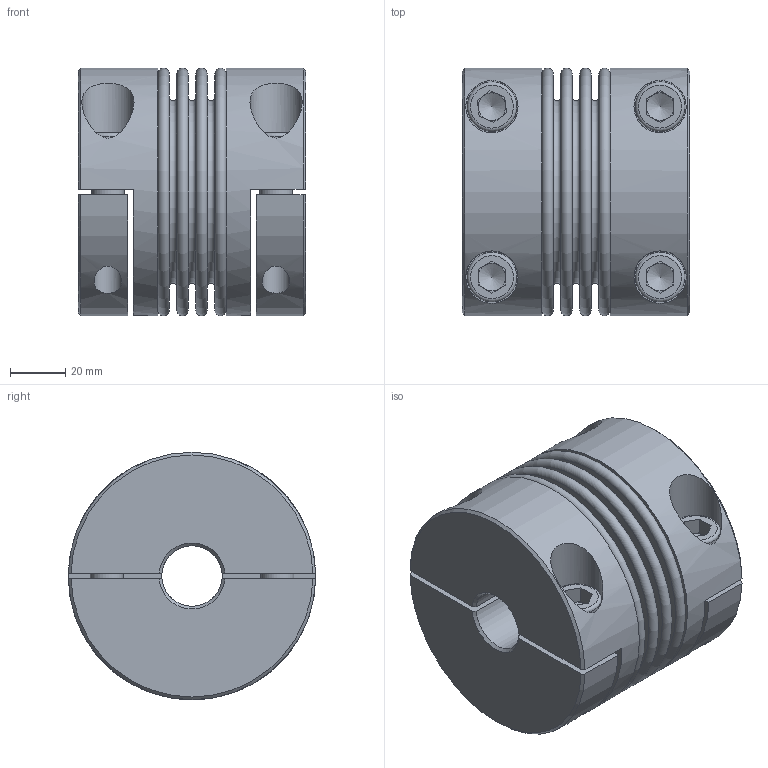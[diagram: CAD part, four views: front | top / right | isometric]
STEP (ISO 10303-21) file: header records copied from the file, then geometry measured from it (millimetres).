
FILE_DESCRIPTION( ( 'Unknown' ), '1' );
FILE_NAME( 'C:/Users/skarpstein/Desktop/KB4HC/KB4HC-200-83.stp', 'Unknown', ( 'Unknown' ), ( 'Unknown' ), 'PSStep 16.0.42', 'Unknown', ' ' );
FILE_SCHEMA( ( 'AUTOMOTIVE_DESIGN { 1 0 10303 214 1 1 1 1 }' ) );
Length unit declared in the file: millimetre
Products named in the file (5): Assem1; KN4HC-200; BK200_Standard_0; Socket Head Cap Screw_DIN_DIN 912 M12 x 35 --- 35N_4
Assembly tree (9 placements, depth 2):
  Assem1
    KN4HC-200  x2
    KN4HC-200  x2
    BK200_Standard_0
    Socket Head Cap Screw_DIN_DIN 912 M12 x 35 --- 35N_4  x4
Bounding box: 82.75 x 90 x 90 mm (x, y, z)
Volume: 331618.8 mm3; surface area: 133502.6 mm2
Topology: 9 solids, 9 shells, 174 faces, 368 edges, 234 vertices
Faces by surface type: plane 100, cylinder 32, torus 26, cone 16
Full cylindrical faces by diameter (mm): 10.106 x4, 12 x4, 12.5 x4, 18 x4, 19 x4, 22 x2, 79.2 x2, 80.4 x2, 90 x2
Entity records: 3208 total; most frequent: CARTESIAN_POINT 707, DIRECTION 382, ORIENTED_EDGE 254, AXIS2_PLACEMENT_3D 171, EDGE_LOOP 152, EDGE_CURVE 127, FACE_OUTER_BOUND 120, VERTEX_POINT 112
